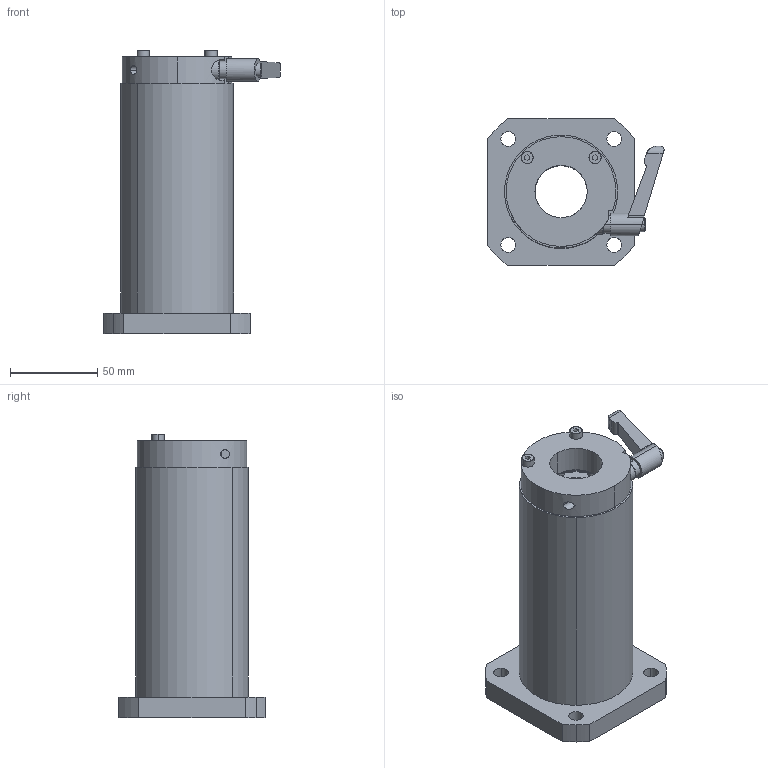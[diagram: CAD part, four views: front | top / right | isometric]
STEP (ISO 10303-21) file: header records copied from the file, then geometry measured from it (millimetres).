
FILE_DESCRIPTION (( 'STEP AP214' ), '1' );
FILE_NAME ('LFWK30MF-CS.STEP', '2023-06-27T02:56:24', ( '' ), ( '' ), 'SwSTEP 2.0', 'SolidWorks 2019', '' );
FILE_SCHEMA (( 'AUTOMOTIVE_DESIGN' ));
Length unit declared in the file: millimetre
Products named in the file (3): LFWK30MF-CS; “ÁSCK3015SS-S4.5; LFWK30MF
Assembly tree (2 placements, depth 2):
  LFWK30MF-CS
    LFWK30MF
    “ÁSCK3015SS-S4.5
Bounding box: 101.1 x 84 x 163 mm (x, y, z)
Volume: 447495.5 mm3; surface area: 75378.5 mm2
Topology: 3 solids, 5 shells, 175 faces, 465 edges, 294 vertices
Faces by surface type: cylinder 74, plane 66, bspline 16, cone 11, torus 8
Entity records: 7972 total; most frequent: CARTESIAN_POINT 1441, DIRECTION 1008, ORIENTED_EDGE 930, EDGE_CURVE 465, AXIS2_PLACEMENT_3D 411, VERTEX_POINT 294, CIRCLE 247, EDGE_LOOP 209
